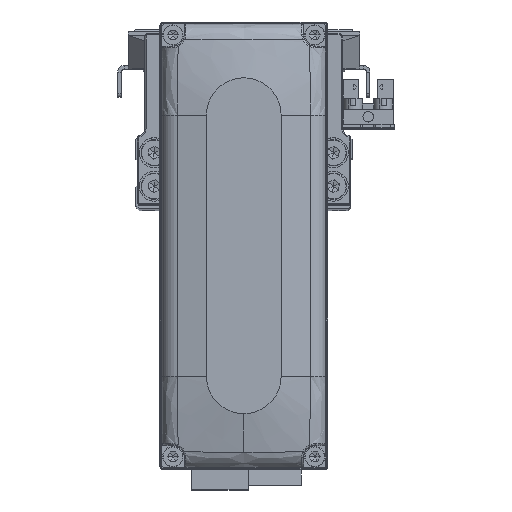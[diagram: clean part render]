
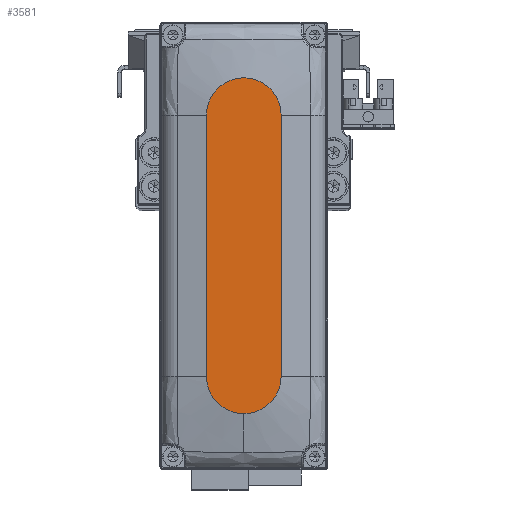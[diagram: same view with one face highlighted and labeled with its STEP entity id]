
A CAD part, top view. The second image highlights one B-rep face of the part: STEP entity #3581.
In plain terms, the highlighted planar face has unit normal (0, 0, 1).
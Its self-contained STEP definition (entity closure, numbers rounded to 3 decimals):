
#318 = DIRECTION ( 'NONE',  ( 0., 0., 1. ) ) ;
#2409 = DIRECTION ( 'NONE',  ( 1., 0., 0. ) ) ;
#2586 = DIRECTION ( 'NONE',  ( 0., 0., 1. ) ) ;
#3235 = CIRCLE ( 'NONE', #26705, 10. ) ;
#3581 = ADVANCED_FACE ( 'NONE', ( #5729 ), #18541, .T. ) ;
#3808 = DIRECTION ( 'NONE',  ( 1., 0., 0. ) ) ;
#5354 = VERTEX_POINT ( 'NONE', #39901 ) ;
#5729 = FACE_OUTER_BOUND ( 'NONE', #36788, .T. ) ;
#6561 = EDGE_CURVE ( 'NONE', #22387, #5354, #13127, .T. ) ;
#6683 = CARTESIAN_POINT ( 'NONE',  ( -35., 0., 28. ) ) ;
#7730 = ORIENTED_EDGE ( 'NONE', *, *, #39964, .T. ) ;
#8990 = CARTESIAN_POINT ( 'NONE',  ( 45., 0., 28. ) ) ;
#11277 = ORIENTED_EDGE ( 'NONE', *, *, #11817, .T. ) ;
#11817 = EDGE_CURVE ( 'NONE', #24513, #22387, #33548, .T. ) ;
#13127 = LINE ( 'NONE', #25943, #24187 ) ;
#13137 = DIRECTION ( 'NONE',  ( 1., 0., 0. ) ) ;
#14293 = AXIS2_PLACEMENT_3D ( 'NONE', #6683, #19497, #32287 ) ;
#15402 = DIRECTION ( 'NONE',  ( 1., 0., 0. ) ) ;
#17756 = VECTOR ( 'NONE', #2409, 1000. ) ;
#17791 = EDGE_CURVE ( 'NONE', #21615, #24513, #3235, .T. ) ;
#18382 = LINE ( 'NONE', #31168, #17756 ) ;
#18541 = PLANE ( 'NONE',  #19960 ) ;
#19497 = DIRECTION ( 'NONE',  ( 0., 0., 1. ) ) ;
#19773 = CARTESIAN_POINT ( 'NONE',  ( 35., 0., 28. ) ) ;
#19960 = AXIS2_PLACEMENT_3D ( 'NONE', #31327, #2586, #15402 ) ;
#20818 = AXIS2_PLACEMENT_3D ( 'NONE', #19773, #32563, #3808 ) ;
#21615 = VERTEX_POINT ( 'NONE', #26247 ) ;
#22387 = VERTEX_POINT ( 'NONE', #25472 ) ;
#22548 = ORIENTED_EDGE ( 'NONE', *, *, #17791, .T. ) ;
#24090 = ORIENTED_EDGE ( 'NONE', *, *, #30560, .T. ) ;
#24187 = VECTOR ( 'NONE', #38742, 1000. ) ;
#24513 = VERTEX_POINT ( 'NONE', #8990 ) ;
#25472 = CARTESIAN_POINT ( 'NONE',  ( 35., 10., 28. ) ) ;
#25943 = CARTESIAN_POINT ( 'NONE',  ( -35., 10., 28. ) ) ;
#26247 = CARTESIAN_POINT ( 'NONE',  ( 35., -10., 28. ) ) ;
#26705 = AXIS2_PLACEMENT_3D ( 'NONE', #29109, #318, #13137 ) ;
#28229 = VERTEX_POINT ( 'NONE', #28446 ) ;
#28446 = CARTESIAN_POINT ( 'NONE',  ( -35., -10., 28. ) ) ;
#29109 = CARTESIAN_POINT ( 'NONE',  ( 35., 0., 28. ) ) ;
#30560 = EDGE_CURVE ( 'NONE', #5354, #28229, #32387, .T. ) ;
#31168 = CARTESIAN_POINT ( 'NONE',  ( -35., -10., 28. ) ) ;
#31327 = CARTESIAN_POINT ( 'NONE',  ( 0., 0., 28. ) ) ;
#32287 = DIRECTION ( 'NONE',  ( 1., 0., 0. ) ) ;
#32387 = CIRCLE ( 'NONE', #14293, 10. ) ;
#32563 = DIRECTION ( 'NONE',  ( 0., 0., 1. ) ) ;
#33548 = CIRCLE ( 'NONE', #20818, 10. ) ;
#36788 = EDGE_LOOP ( 'NONE', ( #37141, #24090, #7730, #22548, #11277 ) ) ;
#37141 = ORIENTED_EDGE ( 'NONE', *, *, #6561, .T. ) ;
#38742 = DIRECTION ( 'NONE',  ( -1., 0., 0. ) ) ;
#39901 = CARTESIAN_POINT ( 'NONE',  ( -35., 10., 28. ) ) ;
#39964 = EDGE_CURVE ( 'NONE', #28229, #21615, #18382, .T. ) ;
